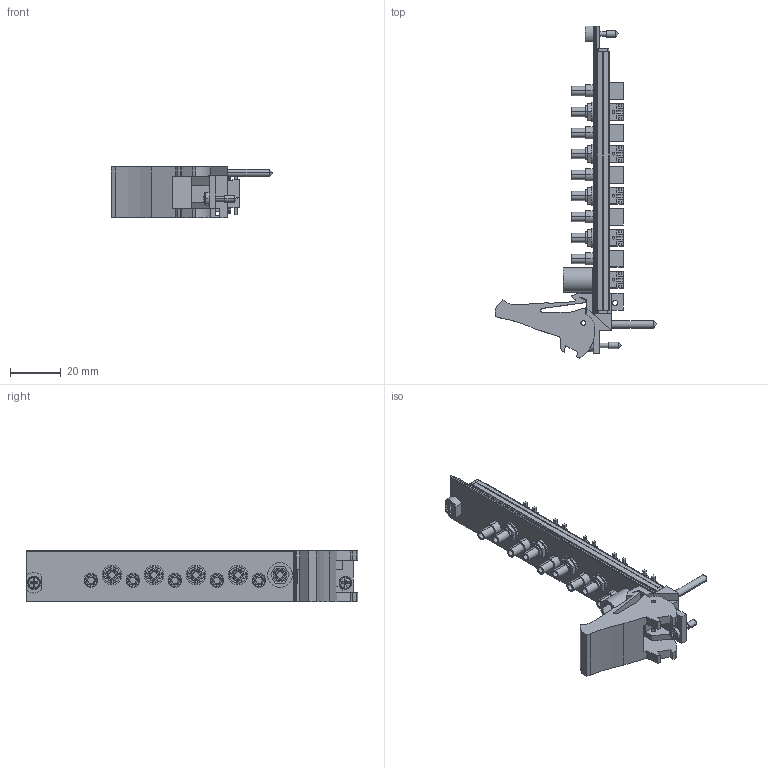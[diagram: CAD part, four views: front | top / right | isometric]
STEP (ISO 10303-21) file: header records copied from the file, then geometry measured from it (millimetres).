
FILE_DESCRIPTION((''),'2;1');
FILE_NAME('CU_PXI-2590','2011-08-15T',('jjorden'),(''),'PRO/ENGINEER BY PARAMETRIC TECHNOLOGY CORPORATION, 2010230','PRO/ENGINEER BY PARAMETRIC TECHNOLOGY CORPORATION, 2010230','');
FILE_SCHEMA(('CONFIG_CONTROL_DESIGN'));
Length unit declared in the file: inch
Products named in the file (1): CU_PXI-2590
Bounding box: 63.53 x 130.5 x 20.31 mm (x, y, z)
Volume: 20240.8 mm3; surface area: 21953.1 mm2
Topology: 3 solids, 3 shells, 1151 faces, 3082 edges, 1992 vertices
Faces by surface type: plane 840, cylinder 277, cone 26, torus 4, sphere 4
Entity records: 36749 total; most frequent: CARTESIAN_POINT 7248, ORIENTED_EDGE 6156, DIRECTION 6095, EDGE_CURVE 3078, VECTOR 2233, LINE 2233, VERTEX_POINT 1992, AXIS2_PLACEMENT_3D 1931
